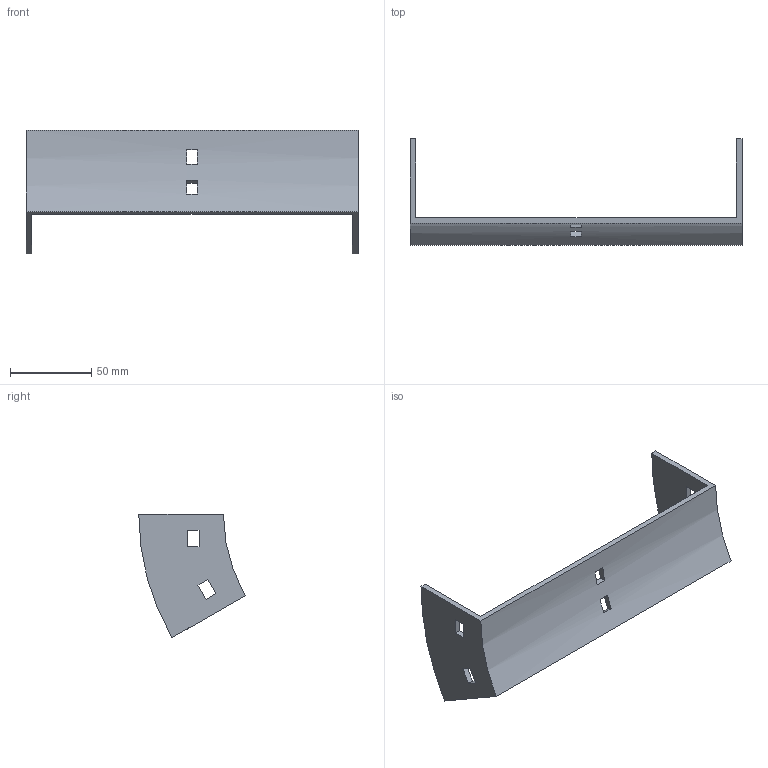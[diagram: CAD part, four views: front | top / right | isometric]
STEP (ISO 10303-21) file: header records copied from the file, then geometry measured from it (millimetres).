
FILE_DESCRIPTION (( 'STEP AP214' ), '1' );
FILE_NAME ('35B1B200.step', '2025-02-21T09:25:25', ( '' ), ( '' ), 'SwSTEP 2.0', 'SolidWorks 2023', '' );
FILE_SCHEMA (( 'AUTOMOTIVE_DESIGN' ));
Length unit declared in the file: millimetre
Products named in the file (1): 35B1B200
Bounding box: 204 x 65.4 x 76 mm (x, y, z)
Volume: 59353.1 mm3; surface area: 37269.8 mm2
Topology: 1 solids, 1 shells, 34 faces, 96 edges, 64 vertices
Faces by surface type: plane 30, cylinder 4
Entity records: 1143 total; most frequent: CARTESIAN_POINT 195, ORIENTED_EDGE 192, DIRECTION 182, EDGE_CURVE 96, VECTOR 80, LINE 80, VERTEX_POINT 64, AXIS2_PLACEMENT_3D 51
